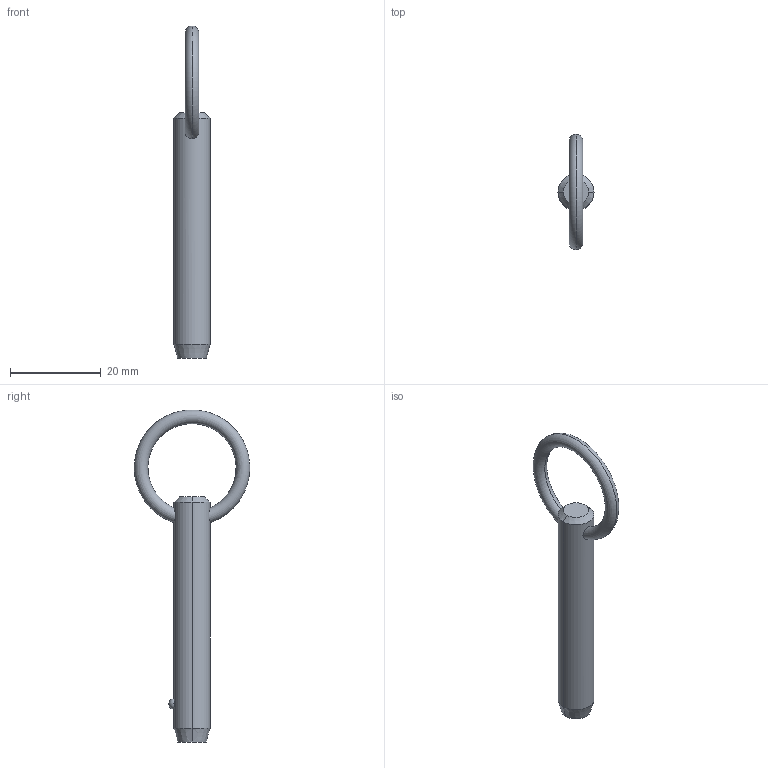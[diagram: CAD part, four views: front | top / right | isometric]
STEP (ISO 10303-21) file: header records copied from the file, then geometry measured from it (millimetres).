
FILE_DESCRIPTION (( 'STEP AP203' ), '1' );
FILE_NAME ('P1250.031-150.step', '2019-07-29T19:49:25', ( '' ), ( '' ), 'SwSTEP 2.0', 'SolidWorks 2017', '' );
FILE_SCHEMA (( 'CONFIG_CONTROL_DESIGN' ));
Length unit declared in the file: millimetre
Products named in the file (1): P1250.031-150
Bounding box: 7.93 x 25.36 x 73 mm (x, y, z)
Volume: 3066.1 mm3; surface area: 1979.9 mm2
Topology: 1 solids, 1 shells, 12 faces, 28 edges, 17 vertices
Faces by surface type: cone 4, torus 2, sphere 2, cylinder 2, plane 2
Entity records: 509 total; most frequent: CARTESIAN_POINT 176, DIRECTION 56, ORIENTED_EDGE 48, AXIS2_PLACEMENT_3D 25, EDGE_CURVE 24, EDGE_LOOP 15, VERTEX_POINT 15, FACE_OUTER_BOUND 12
